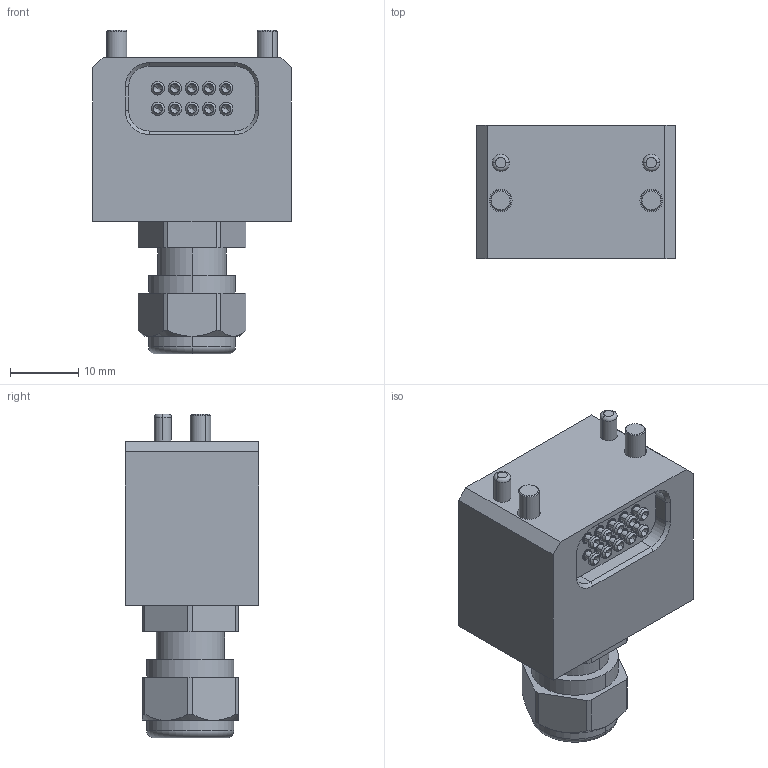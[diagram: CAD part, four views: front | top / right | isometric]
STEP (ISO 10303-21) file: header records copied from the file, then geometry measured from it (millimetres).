
FILE_DESCRIPTION (( 'STEP AP203' ), '1' );
FILE_NAME ('1507-C71A.STEP', '2019-07-23T19:54:39', ( '' ), ( '' ), 'SwSTEP 2.0', 'SolidWorks 2019', '' );
FILE_SCHEMA (( 'CONFIG_CONTROL_DESIGN' ));
Length unit declared in the file: millimetre
Products named in the file (7): 96504-P1022; 49405; 1601-P20N; 1507-C71A; 95505-P1087; 1507-C73N; 48328
Assembly tree (26 placements, depth 2):
  1507-C71A
    1507-C73N
    96504-P1022  x10
    95505-P1087  x10
    49405  x2
    1601-P20N
    48328  x2
Bounding box: 29 x 19.5 x 47.3 mm (x, y, z)
Volume: 11130 mm3; surface area: 9457.4 mm2
Topology: 26 solids, 26 shells, 535 faces, 1173 edges, 748 vertices
Faces by surface type: cylinder 228, plane 190, cone 62, torus 46, bspline 9
Entity records: 8110 total; most frequent: CARTESIAN_POINT 1654, DIRECTION 1151, ORIENTED_EDGE 1014, EDGE_CURVE 507, AXIS2_PLACEMENT_3D 444, VERTEX_POINT 329, VECTOR 263, LINE 263
